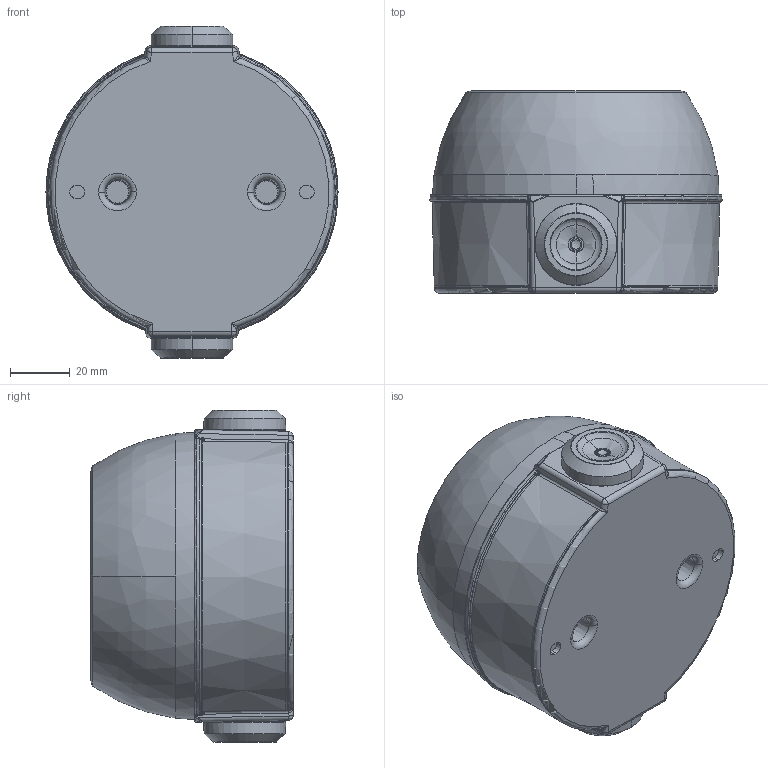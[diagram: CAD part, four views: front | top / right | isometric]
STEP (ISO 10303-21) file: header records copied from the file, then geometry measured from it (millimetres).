
FILE_DESCRIPTION((''),'2;1');
FILE_NAME('15012081Z_DMEC_MIDBAY_111X68','2017-12-29T',('Emanuel.Wild'),(''),'PRO/ENGINEER BY PARAMETRIC TECHNOLOGY CORPORATION, 2015200','PRO/ENGINEER BY PARAMETRIC TECHNOLOGY CORPORATION, 2015200','');
FILE_SCHEMA(('AUTOMOTIVE_DESIGN { 1 0 10303 214 1 1 1 1 }'));
Length unit declared in the file: millimetre
Products named in the file (1): 15012081Z_DMEC_MIDBAY_111X68
Bounding box: 98 x 67.9 x 111.4 mm (x, y, z)
Volume: 441045.4 mm3; surface area: 42772 mm2
Topology: 1 solids, 13 shells, 550 faces, 1254 edges, 742 vertices
Faces by surface type: torus 140, cylinder 105, plane 99, bspline 91, cone 69, sphere 46
Entity records: 24826 total; most frequent: CARTESIAN_POINT 8775, DIRECTION 2551, ORIENTED_EDGE 2504, PRESENTATION_STYLE_ASSIGNMENT 1253, STYLED_ITEM 1253, CURVE_STYLE 1252, EDGE_CURVE 1252, AXIS2_PLACEMENT_3D 1133
